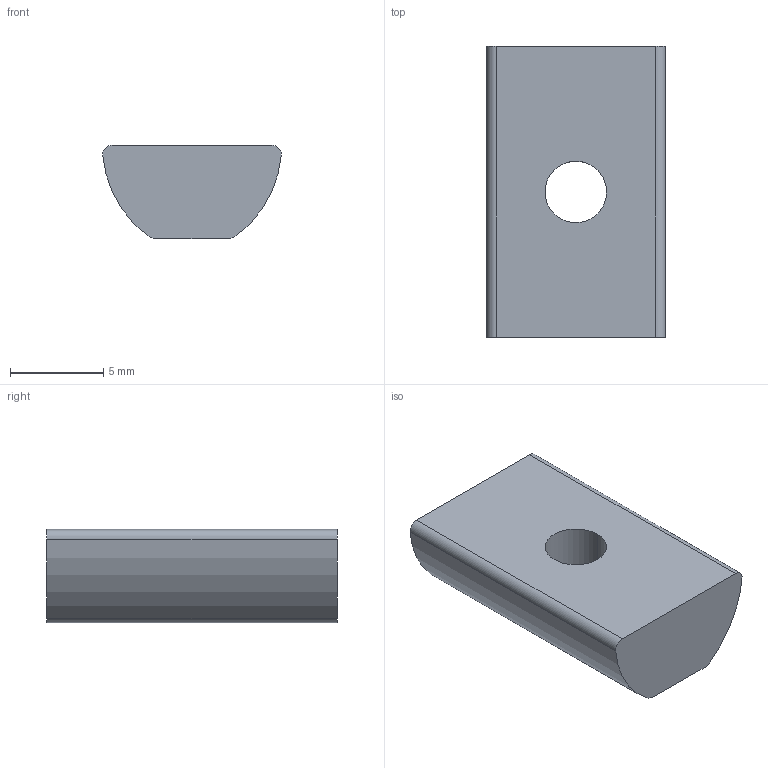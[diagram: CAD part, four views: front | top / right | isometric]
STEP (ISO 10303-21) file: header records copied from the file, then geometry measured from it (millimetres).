
FILE_DESCRIPTION (( 'STEP AP214' ), '1' );
FILE_NAME ('J3M4F.step', '2017-05-24T07:39:19', ( 'admin' ), ( '' ), 'SwSTEP 2.0', 'SolidWorks 2014', '' );
FILE_SCHEMA (( 'AUTOMOTIVE_DESIGN' ));
Length unit declared in the file: millimetre
Products named in the file (1): J3M4F
Bounding box: 9.57 x 15.6 x 5 mm (x, y, z)
Volume: 582.6 mm3; surface area: 508 mm2
Topology: 1 solids, 1 shells, 12 faces, 30 edges, 20 vertices
Faces by surface type: cylinder 8, plane 4
Entity records: 430 total; most frequent: DIRECTION 72, CARTESIAN_POINT 63, ORIENTED_EDGE 60, EDGE_CURVE 30, AXIS2_PLACEMENT_3D 29, VERTEX_POINT 20, CIRCLE 16, EDGE_LOOP 14
